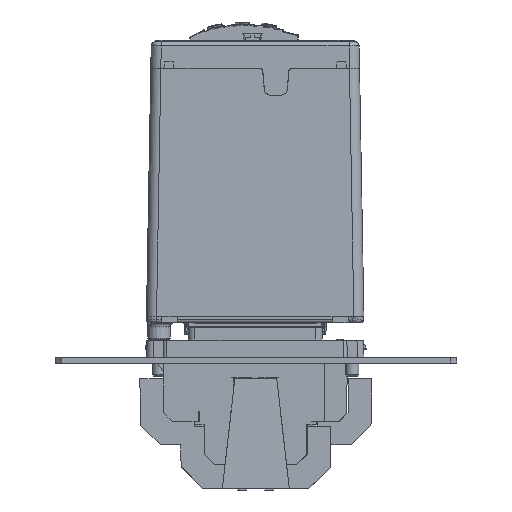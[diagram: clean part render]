
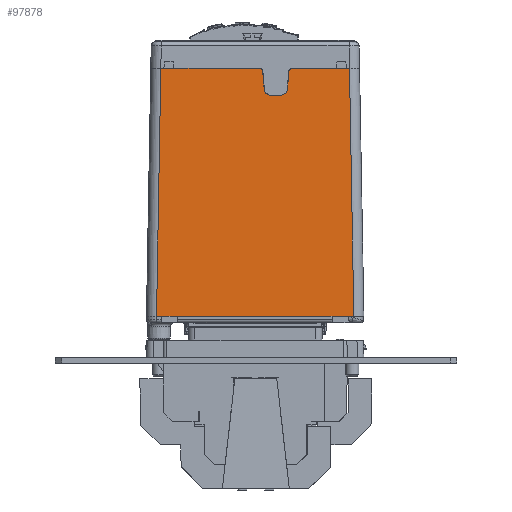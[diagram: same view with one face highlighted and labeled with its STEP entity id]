
A CAD part, left-side view. The second image highlights one B-rep face of the part: STEP entity #97878.
In plain terms, the highlighted planar face has unit normal (-1, 0, 0.018).
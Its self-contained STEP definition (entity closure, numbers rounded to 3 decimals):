
#7019=FACE_OUTER_BOUND('',#11945,.T.);
#11945=EDGE_LOOP('',(#71933,#71934,#71935,#71936,#71937,#71938,#71939,#71940,
#71941,#71942,#71943,#71944,#71945,#71946,#71947,#71948,#71949,#71950,#71951,
#71952,#71953,#71954));
#15392=ELLIPSE('',#103961,2.,2.);
#15396=ELLIPSE('',#103969,2.,2.);
#15402=ELLIPSE('',#103984,1.,1.);
#15404=ELLIPSE('',#103988,1.,1.);
#15848=LINE('',#132163,#26387);
#15854=LINE('',#132175,#26393);
#15865=LINE('',#132198,#26404);
#18610=LINE('',#145886,#29149);
#18655=LINE('',#146201,#29194);
#19073=LINE('',#153677,#29612);
#19076=LINE('',#153681,#29615);
#19077=LINE('',#153682,#29616);
#19079=LINE('',#153686,#29618);
#19189=LINE('',#157090,#29728);
#19219=LINE('',#157229,#29758);
#19221=LINE('',#157238,#29760);
#19248=LINE('',#157341,#29787);
#19250=LINE('',#157349,#29789);
#19259=LINE('',#157818,#29798);
#19260=LINE('',#157819,#29799);
#19261=LINE('',#157820,#29800);
#19262=LINE('',#157821,#29801);
#26387=VECTOR('',#108181,10.);
#26393=VECTOR('',#108191,10.);
#26404=VECTOR('',#108212,10.);
#29149=VECTOR('',#115137,10.);
#29194=VECTOR('',#115258,10.);
#29612=VECTOR('',#116690,10.);
#29615=VECTOR('',#116693,10.);
#29616=VECTOR('',#116694,10.);
#29618=VECTOR('',#116698,10.);
#29728=VECTOR('',#117046,10.);
#29758=VECTOR('',#117142,10.);
#29760=VECTOR('',#117148,10.);
#29787=VECTOR('',#117245,10.);
#29789=VECTOR('',#117255,10.);
#29798=VECTOR('',#117288,10.);
#29799=VECTOR('',#117289,10.);
#29800=VECTOR('',#117290,10.);
#29801=VECTOR('',#117291,10.);
#37091=VERTEX_POINT('',#132160);
#37092=VERTEX_POINT('',#132162);
#37095=VERTEX_POINT('',#132172);
#37096=VERTEX_POINT('',#132174);
#37103=VERTEX_POINT('',#132196);
#40054=VERTEX_POINT('',#145860);
#40057=VERTEX_POINT('',#145867);
#40063=VERTEX_POINT('',#145884);
#40072=VERTEX_POINT('',#145906);
#40120=VERTEX_POINT('',#146200);
#40526=VERTEX_POINT('',#152600);
#40532=VERTEX_POINT('',#152641);
#40591=VERTEX_POINT('',#153609);
#40597=VERTEX_POINT('',#153624);
#40611=VERTEX_POINT('',#153685);
#40758=VERTEX_POINT('',#157228);
#40772=VERTEX_POINT('',#157283);
#40773=VERTEX_POINT('',#157285);
#40779=VERTEX_POINT('',#157304);
#40780=VERTEX_POINT('',#157306);
#40787=VERTEX_POINT('',#157338);
#40788=VERTEX_POINT('',#157346);
#46512=EDGE_CURVE('',#37092,#37091,#15848,.T.);
#46518=EDGE_CURVE('',#37096,#37095,#15854,.T.);
#46530=EDGE_CURVE('',#37103,#37091,#15865,.T.);
#50870=EDGE_CURVE('',#40063,#40057,#18610,.T.);
#50947=EDGE_CURVE('',#40054,#40120,#18655,.T.);
#51832=EDGE_CURVE('',#40591,#40597,#19073,.T.);
#51835=EDGE_CURVE('',#37092,#40526,#19076,.T.);
#51836=EDGE_CURVE('',#40532,#37095,#19077,.T.);
#51838=EDGE_CURVE('',#37096,#40611,#19079,.T.);
#52054=EDGE_CURVE('',#40120,#40532,#19189,.T.);
#52102=EDGE_CURVE('',#40526,#40758,#19219,.T.);
#52106=EDGE_CURVE('',#40072,#40758,#19221,.T.);
#52122=EDGE_CURVE('',#40772,#40773,#15392,.T.);
#52132=EDGE_CURVE('',#40779,#40780,#15396,.T.);
#52151=EDGE_CURVE('',#40787,#40773,#19248,.T.);
#52152=EDGE_CURVE('',#40787,#37103,#15402,.T.);
#52155=EDGE_CURVE('',#40779,#40788,#19250,.T.);
#52157=EDGE_CURVE('',#40611,#40788,#15404,.T.);
#52181=EDGE_CURVE('',#40054,#40057,#19259,.T.);
#52182=EDGE_CURVE('',#40063,#40072,#19260,.T.);
#52183=EDGE_CURVE('',#40772,#40597,#19261,.T.);
#52184=EDGE_CURVE('',#40591,#40780,#19262,.T.);
#71933=ORIENTED_EDGE('',*,*,#52157,.F.);
#71934=ORIENTED_EDGE('',*,*,#51838,.F.);
#71935=ORIENTED_EDGE('',*,*,#46518,.T.);
#71936=ORIENTED_EDGE('',*,*,#51836,.F.);
#71937=ORIENTED_EDGE('',*,*,#52054,.F.);
#71938=ORIENTED_EDGE('',*,*,#50947,.F.);
#71939=ORIENTED_EDGE('',*,*,#52181,.T.);
#71940=ORIENTED_EDGE('',*,*,#50870,.F.);
#71941=ORIENTED_EDGE('',*,*,#52182,.T.);
#71942=ORIENTED_EDGE('',*,*,#52106,.T.);
#71943=ORIENTED_EDGE('',*,*,#52102,.F.);
#71944=ORIENTED_EDGE('',*,*,#51835,.F.);
#71945=ORIENTED_EDGE('',*,*,#46512,.T.);
#71946=ORIENTED_EDGE('',*,*,#46530,.F.);
#71947=ORIENTED_EDGE('',*,*,#52152,.F.);
#71948=ORIENTED_EDGE('',*,*,#52151,.T.);
#71949=ORIENTED_EDGE('',*,*,#52122,.F.);
#71950=ORIENTED_EDGE('',*,*,#52183,.T.);
#71951=ORIENTED_EDGE('',*,*,#51832,.F.);
#71952=ORIENTED_EDGE('',*,*,#52184,.T.);
#71953=ORIENTED_EDGE('',*,*,#52132,.F.);
#71954=ORIENTED_EDGE('',*,*,#52155,.T.);
#89277=PLANE('',#103998);
#97878=ADVANCED_FACE('',(#7019),#89277,.T.);
#103961=AXIS2_PLACEMENT_3D('',#157286,#117182,#117183);
#103969=AXIS2_PLACEMENT_3D('',#157307,#117204,#117205);
#103984=AXIS2_PLACEMENT_3D('',#157343,#117248,#117249);
#103988=AXIS2_PLACEMENT_3D('',#157352,#117259,#117260);
#103998=AXIS2_PLACEMENT_3D('',#157817,#117286,#117287);
#108181=DIRECTION('',(0.,1.,0.));
#108191=DIRECTION('',(0.,1.,0.));
#108212=DIRECTION('',(0.,-1.,0.));
#115137=DIRECTION('',(0.,1.,0.));
#115258=DIRECTION('',(0.,1.,0.));
#116690=DIRECTION('',(0.,-1.,0.));
#116693=DIRECTION('',(0.,-1.,0.));
#116694=DIRECTION('',(0.,-1.,0.));
#116698=DIRECTION('',(0.,-1.,0.));
#117046=DIRECTION('',(0.017,-0.017,1.));
#117142=DIRECTION('',(-0.017,-0.017,-1.));
#117148=DIRECTION('',(0.,-1.,0.));
#117182=DIRECTION('center_axis',(-1.,0.,
0.017));
#117183=DIRECTION('ref_axis',(-0.017,0.,
-1.));
#117204=DIRECTION('center_axis',(-1.,0.,
0.017));
#117205=DIRECTION('ref_axis',(-0.017,0.,
-1.));
#117245=DIRECTION('',(-0.017,0.087,-0.996));
#117248=DIRECTION('center_axis',(1.,0.,
-0.017));
#117249=DIRECTION('ref_axis',(0.017,0.,
1.));
#117255=DIRECTION('',(0.017,0.087,0.996));
#117259=DIRECTION('center_axis',(1.,0.,
-0.017));
#117260=DIRECTION('ref_axis',(0.017,0.,
1.));
#117286=DIRECTION('center_axis',(-1.,0.,
0.017));
#117287=DIRECTION('ref_axis',(0.,-1.,0.));
#117288=DIRECTION('',(0.,-1.,0.));
#117289=DIRECTION('',(0.,-1.,0.));
#117290=DIRECTION('',(0.,1.,0.));
#117291=DIRECTION('',(0.,1.,0.));
#132160=CARTESIAN_POINT('',(-21.173,-24.024,88.));
#132162=CARTESIAN_POINT('',(-21.173,-27.024,88.));
#132163=CARTESIAN_POINT('',(-21.173,-32.25,88.));
#132172=CARTESIAN_POINT('',(-21.173,27.523,88.));
#132174=CARTESIAN_POINT('',(-21.173,24.523,88.));
#132175=CARTESIAN_POINT('',(-21.173,-32.25,88.));
#132196=CARTESIAN_POINT('',(-21.173,-10.832,88.));
#132198=CARTESIAN_POINT('',(-21.173,-16.,88.));
#145860=CARTESIAN_POINT('',(-22.465,28.165,14.));
#145867=CARTESIAN_POINT('',(-22.465,23.5,14.));
#145884=CARTESIAN_POINT('',(-22.465,-23.,14.));
#145886=CARTESIAN_POINT('',(-22.465,-32.25,14.));
#145906=CARTESIAN_POINT('',(-22.465,-27.665,14.));
#146200=CARTESIAN_POINT('',(-22.465,29.716,14.));
#146201=CARTESIAN_POINT('',(-22.465,-32.25,14.));
#152600=CARTESIAN_POINT('',(-21.173,-27.924,88.));
#152641=CARTESIAN_POINT('',(-21.173,28.424,88.));
#153609=CARTESIAN_POINT('',(-21.313,-4.498,80.));
#153624=CARTESIAN_POINT('',(-21.313,-7.333,80.));
#153677=CARTESIAN_POINT('',(-21.313,-19.083,80.));
#153681=CARTESIAN_POINT('',(-21.173,-16.,88.));
#153682=CARTESIAN_POINT('',(-21.173,-16.,88.));
#153685=CARTESIAN_POINT('',(-21.173,-0.999,88.));
#153686=CARTESIAN_POINT('',(-21.173,-16.,88.));
#157090=CARTESIAN_POINT('',(-22.491,29.741,12.515));
#157228=CARTESIAN_POINT('',(-22.465,-29.216,14.));
#157229=CARTESIAN_POINT('',(-22.494,-29.245,12.34));
#157238=CARTESIAN_POINT('',(-22.465,-15.665,14.));
#157283=CARTESIAN_POINT('',(-21.313,-7.383,80.));
#157285=CARTESIAN_POINT('',(-21.281,-9.375,81.826));
#157286=CARTESIAN_POINT('Origin',(-21.278,-7.383,82.));
#157304=CARTESIAN_POINT('',(-21.281,-2.455,81.826));
#157306=CARTESIAN_POINT('',(-21.313,-4.448,80.));
#157307=CARTESIAN_POINT('Origin',(-21.278,-4.448,82.));
#157338=CARTESIAN_POINT('',(-21.189,-9.835,87.087));
#157341=CARTESIAN_POINT('',(-21.815,-6.7,51.245));
#157343=CARTESIAN_POINT('Origin',(-21.191,-10.832,87.));
#157346=CARTESIAN_POINT('',(-21.189,-1.995,87.087));
#157349=CARTESIAN_POINT('',(-21.855,-5.329,48.979));
#157352=CARTESIAN_POINT('Origin',(-21.191,-0.999,
87.));
#157817=CARTESIAN_POINT('Origin',(-22.5,-32.25,12.));
#157818=CARTESIAN_POINT('',(-22.465,-15.665,14.));
#157819=CARTESIAN_POINT('',(-22.465,-15.665,14.));
#157820=CARTESIAN_POINT('',(-21.313,-19.083,80.));
#157821=CARTESIAN_POINT('',(-21.313,-19.083,80.));
